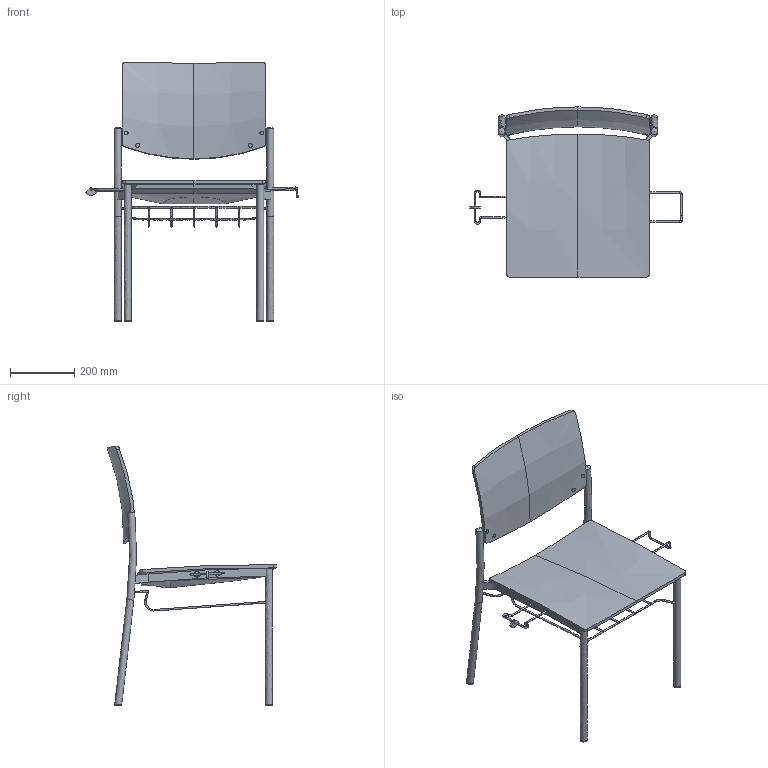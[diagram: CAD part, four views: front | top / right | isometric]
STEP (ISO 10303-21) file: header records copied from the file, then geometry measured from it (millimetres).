
FILE_DESCRIPTION(/* description */ (''),/* implementation_level */ '2;1');
FILE_NAME(/* name */ 'Seance 092+dopl',/* time_stamp */ '2020-03-26T15:24:12+01:00',/* author */ (''),/* organization */ (''),/* preprocessor_version */ 'ST-DEVELOPER v16.5',/* originating_system */ '',/* authorisation */ '');
FILE_SCHEMA (('AUTOMOTIVE_DESIGN'));
Length unit declared in the file: millimetre
Products named in the file (1): Document
Bounding box: 659.37 x 528.45 x 807.99 mm (x, y, z)
Volume: 3523500.3 mm3; surface area: 1168490.2 mm2
Topology: 17 solids, 35 shells, 187 faces, 378 edges, 237 vertices
Faces by surface type: bspline 125, plane 62
Entity records: 9355 total; most frequent: CARTESIAN_POINT 6810, ORIENTED_EDGE 710, EDGE_CURVE 373, VERTEX_POINT 231, EDGE_LOOP 191, ADVANCED_FACE 187, FACE_OUTER_BOUND 187, B_SPLINE_CURVE_WITH_KNOTS 158
